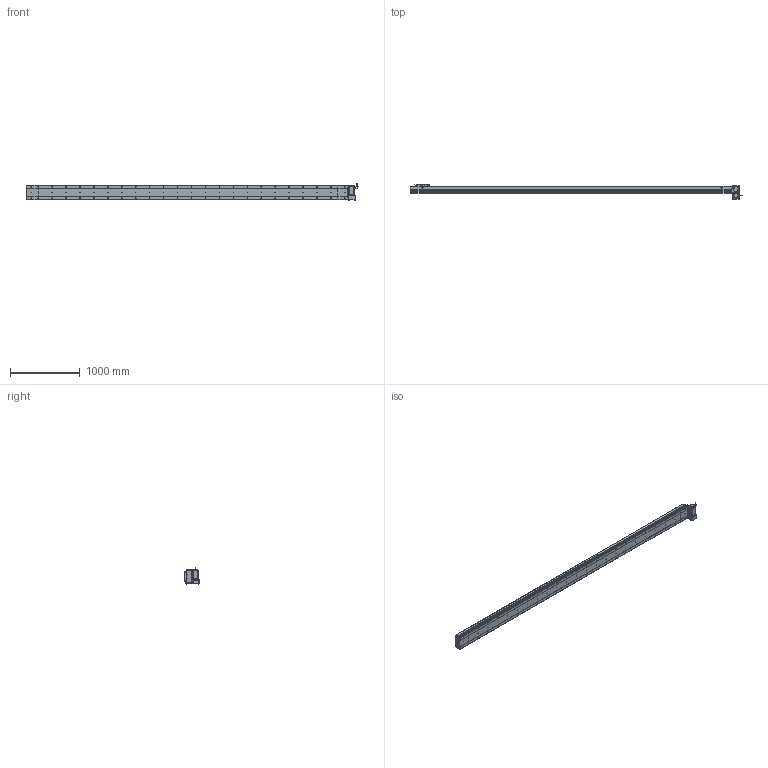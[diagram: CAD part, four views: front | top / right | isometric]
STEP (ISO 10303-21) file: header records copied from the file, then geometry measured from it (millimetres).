
FILE_DESCRIPTION (( 'STEP AP214' ), '1' );
FILE_NAME ('D20 CBH RU S4300.STEP', '2010-06-30T11:30:23', ( 'Conseil Régional Haute-Normandie' ), ( 'Conseil Régional Haute-Normandie' ), 'SwSTEP 2.0', 'SolidWorks 2010', '' );
FILE_SCHEMA (( 'AUTOMOTIVE_DESIGN' ));
Length unit declared in the file: millimetre
Products named in the file (31): D20 CBH RU S4300; Plaque De Serrage D20_Default; Moteur motionking 90BLDC125A-640; Cache Support Moteur RU_Default; Couvercle_Default; Corp Tail D20+100_Default; Couvercle S4300_Default; Corp S4300_Default; Tail D20+100_Default; Corp D20 S4300_Default; Glissiere_Default; Chariot D20_Default; ecrou_Default; vis M5 L30_Default; Conecteur_Default; Support Chariot D20_Default; vis M5 L47_Default; Conecteur2_Default; codeur 90BLDC125-640; corps 90BLDC125A-640; avant 90BLDC125A-640; Couvercle RU_Default; Plaque de Bout Tail D20_Default; Corp Tail D20 RU_Default; Rondelle Cache D20 RU_Default; vis M5 L15_Default; Head RU_Default; Plaque de Bout Head D20 RU_Default; Support moteur RU_Default; Plaque De Serrage D20 RU_Default
Assembly tree (66 placements, depth 4):
  D20 CBH RU S4300
    Tail D20+100_Default
      Corp Tail D20+100_Default
      vis M5 L15_Default  x6
      Plaque de Bout Tail D20_Default
      Plaque De Serrage D20_Default
      Couvercle_Default
    Chariot D20_Default
      Support Chariot D20_Default
      vis M5 L15_Default  x8
      Chariot D20_Default
      Glissiere_Default
    Head RU_Default
      Corp Tail D20 RU_Default
      Couvercle RU_Default
      Rondelle Cache D20 RU_Default  x3
      Plaque de Bout Head D20 RU_Default
      Support moteur RU_Default
      vis M5 L47_Default  x4
      ecrou_Default  x4
      vis M5 L30_Default  x4
      vis M5 L15_Default  x12
      Cache Support Moteur RU_Default
      Plaque De Serrage D20 RU_Default
      Moteur motionking 90BLDC125A-640
        Conecteur_Default
        Conecteur2_Default
        corps 90BLDC125A-640
        avant 90BLDC125A-640
        codeur 90BLDC125-640
    Corp D20 S4300_Default
      Corp S4300_Default
      Couvercle S4300_Default
Bounding box: 4764.45 x 209 x 229.7 mm (x, y, z)
Volume: 31453290.7 mm3; surface area: 5979734.6 mm2
Topology: 103 solids, 103 shells, 3880 faces, 9632 edges, 6262 vertices
Faces by surface type: plane 2135, bspline 806, cylinder 776, torus 91, cone 68, sphere 4
Entity records: 162454 total; most frequent: CARTESIAN_POINT 82812, ORIENTED_EDGE 15732, DIRECTION 12210, EDGE_CURVE 7866, VERTEX_POINT 5206, LINE 5026, VECTOR 5026, AXIS2_PLACEMENT_3D 3592
